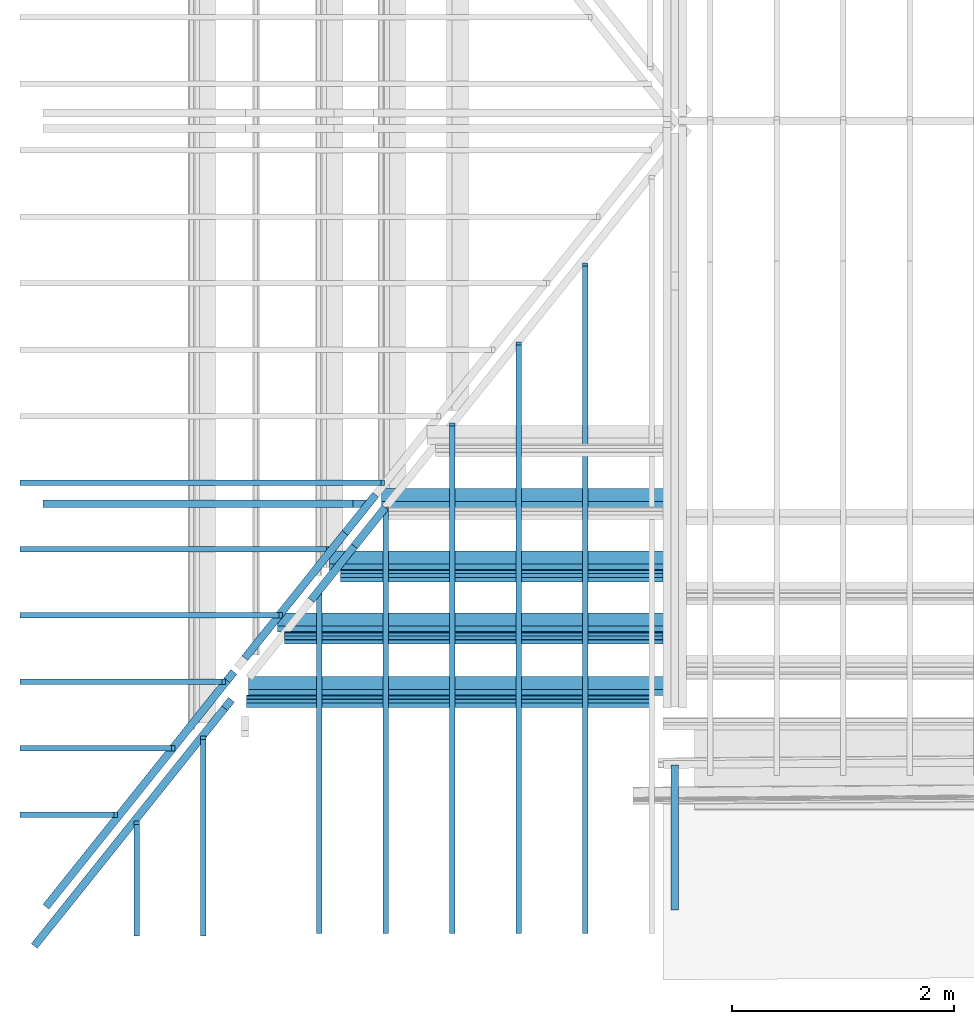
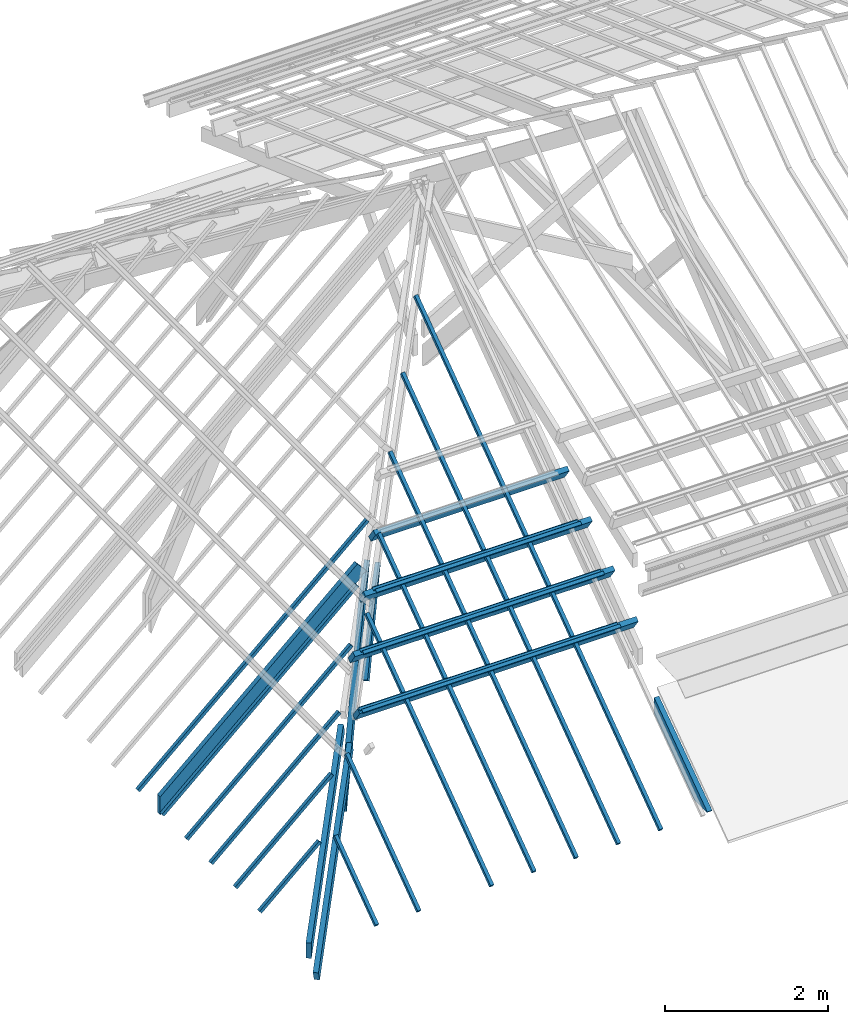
# One storey, part 1 of 18: 26 beams.
"""IFC2X3 building model written with IfcOpenShell, lengths in centimetres."""

from ifc_helpers import new_model, entity, si_unit, converted_unit, direction, frame, frame_2d, origin, origin_2d_with_axis, place, context, subcontext, project, spatial, polyline, circle_curve, parameter, trimmed, segment, composite_curve, rectangle, outline, extrude, clip, halfspace, material, type_object, element, save


model = new_model("IFC2X3")

# Units and contexts
model_context = context("Model", 3, precision=0.001, world=frame((0.0, 0.0, 13090.0)), true_north=direction((6.123233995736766e-17, 1.0)))
body_context = subcontext(model_context, "Body", "Model", "MODEL_VIEW")
ifc_project = project(units=[si_unit("LENGTHUNIT", "METRE", prefix="CENTI"), si_unit("AREAUNIT", "SQUARE_METRE"), si_unit("VOLUMEUNIT", "CUBIC_METRE"), converted_unit("PLANEANGLEUNIT", "DEGREE", entity("IfcPlaneAngleMeasure", 0.017453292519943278), si_unit("PLANEANGLEUNIT", "RADIAN"), dimensions=[0, 0, 0, 0, 0, 0, 0])], contexts=[model_context])

# Site, building, storey
site_placement = place(None, origin())
site = spatial("IfcSite", under=ifc_project, at=site_placement, Name="Default", CompositionType="ELEMENT")
building_placement = place(site_placement, origin())
building = spatial("IfcBuilding", under=site, at=building_placement, Name="e 39 logements et 22 maisons relais", CompositionType="ELEMENT")
storey_placement = place(building_placement, frame((0.0, 0.0, 610.0)))
storey = spatial("IfcBuildingStorey", under=building, at=storey_placement, Name="R+2", CompositionType="ELEMENT", Elevation=609.9999999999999)

# Beams
ifc_material_1 = material(Name="Bois - Bois de construction de dimensions courantes")
beam_type_1 = type_object("IfcBeamType", Name="Poutre - Bois de construction de dimensions courantes:70 200", PredefinedType="BEAM")
beam_1_placement = place(storey_placement, frame((-570.9302602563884, -539.0729663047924, -102.6711932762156), z_axis=(0.0, 0.0, 1.0), x_axis=(-1.0, 0.0, 0.0)))
element("IfcBeam", 1, at=beam_1_placement, inside=storey, type_object=beam_type_1, material=ifc_material_1, Name="Poutre - Bois de construction de dimensions courantes:70 200", ObjectType="Poutre - Bois de construction de dimensions courantes:70 200", context=body_context, shape_type="SweptSolid", body=[
    extrude(rectangle(XDim=20.000000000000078, YDim=7.000000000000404, at=frame_2d((3.1308289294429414e-14, -4.3520742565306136e-14), x_axis=(0.0, 1.0))), frame((331.0224028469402, -5.80702955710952, -8.141155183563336), z_axis=(1.0, 0.0, 0.0), x_axis=(0.0, -0.8141155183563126, 0.5807029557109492)), (0.0, 0.0, 1.0), 395.5433670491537),
])
beam_2_placement = place(storey_placement, frame((-570.9302602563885, -481.76311745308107, -61.17146722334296), z_axis=(0.0, 0.0, 1.0), x_axis=(-1.0, 0.0, 0.0)))
element("IfcBeam", 2, at=beam_2_placement, inside=storey, type_object=beam_type_1, material=ifc_material_1, Name="Poutre - Bois de construction de dimensions courantes:70 200", ObjectType="Poutre - Bois de construction de dimensions courantes:70 200", context=body_context, shape_type="SweptSolid", body=[
    extrude(rectangle(XDim=20.000000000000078, YDim=7.000000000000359, at=frame_2d((7.527312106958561e-14, -1.3322676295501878e-14), x_axis=(0.0, 1.0))), frame((331.0224028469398, -5.807029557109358, -8.141155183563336), z_axis=(1.0, 0.0, 0.0), x_axis=(0.0, -0.8141155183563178, 0.5807029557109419)), (0.0, 0.0, 1.0), 369.42831381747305),
])
beam_3_placement = place(storey_placement, frame((-570.9302602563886, -426.0437612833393, -20.823463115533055), z_axis=(0.0, 0.0, 1.0), x_axis=(-1.0, 0.0, 0.0)))
element("IfcBeam", 3, at=beam_3_placement, inside=storey, type_object=beam_type_1, material=ifc_material_1, Name="Poutre - Bois de construction de dimensions courantes:70 200", ObjectType="Poutre - Bois de construction de dimensions courantes:70 200", context=body_context, shape_type="SweptSolid", body=[
    extrude(rectangle(XDim=20.000000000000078, YDim=7.000000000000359, at=frame_2d((7.527312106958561e-14, -1.3322676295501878e-14), x_axis=(0.0, 1.0))), frame((331.02240284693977, -5.807029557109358, -8.141155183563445), z_axis=(1.0, 0.0, 0.0), x_axis=(0.0, -0.8141155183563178, 0.5807029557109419)), (0.0, 0.0, 1.0), 322.2739748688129),
])
beam_4_placement = place(storey_placement, frame((-571.5398602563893, -369.3433485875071, 20.23495251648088), z_axis=(0.0, 0.0, 1.0), x_axis=(-1.0, 0.0, 0.0)))
element("IfcBeam", 4, at=beam_4_placement, inside=storey, type_object=beam_type_1, material=ifc_material_1, Name="Poutre - Bois de construction de dimensions courantes:70 200", ObjectType="Poutre - Bois de construction de dimensions courantes:70 200", context=body_context, shape_type="SweptSolid", body=[
    extrude(rectangle(XDim=19.99999999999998, YDim=7.000000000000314, at=frame_2d((0.0, 0.0), x_axis=(0.0, 1.0))), frame((330.4128028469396, -5.735764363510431, -8.191520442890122), z_axis=(1.0, 0.0, 0.0), x_axis=(0.0, -0.8191520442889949, 0.5735764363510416)), (0.0, 0.0, 1.0), 275.3138276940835),
])
beam_5_placement = place(storey_placement, frame((-1378.984053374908, -368.8034740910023, -63.82767713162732), z_axis=(-0.6686368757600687, 0.0, 0.7435890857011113), x_axis=(0.7435890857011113, 0.0, 0.6686368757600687)))
element("IfcBeam", 5, at=beam_5_placement, inside=storey, type_object=beam_type_1, material=ifc_material_1, Name="Poutre - Bois de construction de dimensions courantes:70 200", ObjectType="Poutre - Bois de construction de dimensions courantes:70 200", context=body_context, shape_type="Clipping", body=[
    clip(extrude(rectangle(XDim=20.0, YDim=7.000000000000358, at=frame_2d((2.042810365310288e-14, 0.0), x_axis=(1.0, 0.0))), frame((-231.65183513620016, 0.0, -92.0), z_axis=(1.0, 0.0, 0.0), x_axis=(0.0, 0.0, -1.0)), (0.0, 0.0, 1.0), 394.3928419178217), halfspace(frame((-186.06070489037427, 585.5520112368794, -51.29823932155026), z_axis=(-0.7435890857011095, 0.0, 0.6686368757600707), x_axis=(0.0, -1.0, 0.0)), False)),
])
beam_6_placement = place(storey_placement, frame((-1417.0565138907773, -653.5047951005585, -118.13387969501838), z_axis=(-0.30661229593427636, -0.38311927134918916, 0.8713257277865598), x_axis=(0.5444394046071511, 0.6802898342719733, 0.49070508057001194)))
element("IfcBeam", 6, at=beam_6_placement, inside=storey, type_object=beam_type_1, material=ifc_material_1, Name="Poutre - Bois de construction de dimensions courantes:70 200", ObjectType="Poutre - Bois de construction de dimensions courantes:70 200", context=body_context, shape_type="Clipping", body=[
    clip(extrude(rectangle(XDim=19.999999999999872, YDim=7.0000000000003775, at=frame_2d((1.1546319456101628e-14, 1.1834977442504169e-13), x_axis=(1.0, 0.0))), frame((-173.65205872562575, 0.0, -92.0), z_axis=(1.0, 0.0, 0.0), x_axis=(0.0, 0.0, -1.0)), (0.0, 0.0, 1.0), 311.686235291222), halfspace(frame((-130.7876422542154, 321.48417638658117, -25.109907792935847), z_axis=(-0.8734440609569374, 0.0, 0.48692450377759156), x_axis=(0.0, -1.0, 0.0)), False)),
])
beam_7_placement = place(storey_placement, frame((-1406.1259773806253, -662.2525589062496, -118.13387969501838), z_axis=(-0.30661229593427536, -0.38311927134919, 0.8713257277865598), x_axis=(0.5444394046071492, 0.6802898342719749, 0.49070508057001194)))
element("IfcBeam", 7, at=beam_7_placement, inside=storey, type_object=beam_type_1, material=ifc_material_1, Name="Poutre - Bois de construction de dimensions courantes:70 200", ObjectType="Poutre - Bois de construction de dimensions courantes:70 200", context=body_context, shape_type="SweptSolid", body=[
    extrude(rectangle(XDim=20.00000000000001, YDim=7.000000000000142, at=frame_2d((-1.7141843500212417e-13, 5.040412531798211e-14), x_axis=(1.0, 0.0))), frame((-201.77810725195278, 0.0, -92.0), z_axis=(1.0, 0.0, 0.0), x_axis=(0.0, 0.0, -1.0)), (0.0, 0.0, 1.0), 315.67919671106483),
])
beam_8_placement = place(storey_placement, frame((-912.5294746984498, -723.302160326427, -162.0), z_axis=(0.0, -0.5761663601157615, 0.8173324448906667), x_axis=(0.0, 0.8173324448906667, 0.5761663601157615)))
element("IfcBeam", 8, at=beam_8_placement, inside=storey, type_object=beam_type_1, material=ifc_material_1, Name="Poutre - Bois de construction de dimensions courantes:70 200", ObjectType="Poutre - Bois de construction de dimensions courantes:70 200", context=body_context, shape_type="Clipping", body=[
    clip(clip(extrude(rectangle(XDim=20.000000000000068, YDim=7.000000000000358, at=frame_2d((-5.417888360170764e-14, -2.220446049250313e-14), x_axis=(0.0, 1.0))), frame((-71.34777337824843, 0.0, -90.0), z_axis=(1.0, 0.0, 0.0), x_axis=(0.0, 1.0, 0.0)), (0.0, 0.0, 1.0), 160.39081977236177), halfspace(frame((-30.130007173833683, -184.77470989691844, -110.89747385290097), z_axis=(-0.5761663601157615, 0.0, -0.8173324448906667), x_axis=(0.0, 1.0, 0.0)), False)), halfspace(frame((70.61394363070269, 184.77470989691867, -106.14297651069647), z_axis=(0.8173324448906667, 0.0, -0.5761663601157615), x_axis=(0.0, -1.0, 0.0)), False)),
])
beam_9_placement = place(storey_placement, frame((-1286.6631369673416, -512.9809315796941, -86.81401463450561), z_axis=(0.921785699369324, -0.20375373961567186, -0.329841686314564), x_axis=(0.387699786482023, 0.4844399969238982, 0.7842236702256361)))
element("IfcBeam", 9, at=beam_9_placement, inside=storey, type_object=beam_type_1, material=ifc_material_1, Name="Poutre - Bois de construction de dimensions courantes:70 200", ObjectType="Poutre - Bois de construction de dimensions courantes:70 200", context=body_context, shape_type="Clipping", body=[
    clip(extrude(rectangle(XDim=20.00000000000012, YDim=7.000000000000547, at=frame_2d((1.687538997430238e-14, -3.2862601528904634e-14), x_axis=(0.0, 1.0))), frame((14.537391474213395, -77.92401202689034, 48.90652665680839), z_axis=(1.0, 0.0, 0.0), x_axis=(0.0, 0.5315926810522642, 0.8470001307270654)), (0.0, 0.0, 1.0), 147.16574684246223), halfspace(frame((73.5082495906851, 134.32793614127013, 334.70154490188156), z_axis=(0.39438647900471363, 0.7783462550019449, -0.488504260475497), x_axis=(0.0, -0.5315926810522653, -0.8470001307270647)), False)),
])
beam_10_placement = place(storey_placement, frame((-1295.5124585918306, -501.6326408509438, -92.30873544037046), z_axis=(0.9252385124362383, -0.19438072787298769, -0.3258064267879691), x_axis=(0.37938594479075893, 0.47405165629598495, 0.7945699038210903)))
element("IfcBeam", 10, at=beam_10_placement, inside=storey, type_object=beam_type_1, material=ifc_material_1, Name="Poutre - Bois de construction de dimensions courantes:70 200", ObjectType="Poutre - Bois de construction de dimensions courantes:70 200", context=body_context, shape_type="Clipping", body=[
    clip(clip(extrude(rectangle(XDim=20.00000000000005, YDim=7.000000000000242, at=frame_2d((6.772360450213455e-14, -9.947598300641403e-14), x_axis=(0.0, 1.0))), frame((-146.96962917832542, -77.63321452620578, 49.366830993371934), z_axis=(1.0, 0.0, 0.0), x_axis=(0.0, 0.5365959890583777, 0.8438392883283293)), (0.0, 0.0, 1.0), 310.9770128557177), halfspace(frame((-76.83597434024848, -309.7725159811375, -396.92998224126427), z_axis=(-0.6071726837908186, 0.6704893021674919, -0.426363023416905), x_axis=(0.0, 0.5365959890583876, 0.8438392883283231)), False)), halfspace(frame((73.58466263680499, 215.59990871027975, 456.8141853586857), z_axis=(0.39438647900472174, 0.7754416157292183, -0.49310202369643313), x_axis=(0.0, -0.5365959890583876, -0.8438392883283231)), False)),
])
ifc_material_2 = material(Name="neuf")
beam_type_2 = type_object("IfcBeamType", Name="panne z:panne z", PredefinedType="BEAM")
beam_11_placement = place(storey_placement, frame((-570.9302602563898, -491.2968195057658, -52.41671928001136), z_axis=(0.0, 0.0, 1.0), x_axis=(-1.0, 0.0, 0.0)))
element("IfcBeam", 11, at=beam_11_placement, inside=storey, type_object=beam_type_2, material=ifc_material_2, Name="panne z:panne z", ObjectType="panne z:panne z", context=body_context, shape_type="SweptSolid", body=[
    extrude(outline(composite_curve([segment(polyline([(-4.600000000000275, -3.0), (-0.300000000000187, -3.0)]), True, "CONTINUOUS"), segment(trimmed(circle_curve(frame_2d((-0.30000000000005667, -2.600000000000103), x_axis=(0.0, -1.0)), 0.39999999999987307), [parameter(0.0)], [parameter(90.00000000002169)], True, "PARAMETER"), True, "CONTINUOUS"), segment(polyline([(0.0999999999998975, -2.600000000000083), (0.1000000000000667, 2.6000000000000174)]), True, "CONTINUOUS"), segment(trimmed(circle_curve(frame_2d((0.3000000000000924, 2.599999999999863), x_axis=(-1.0, 0.0)), 0.20000000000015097), [parameter(270.0000000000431)], [parameter(0.0)], True, "PARAMETER"), False, "CONTINUOUS"), segment(polyline([(0.2999999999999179, 2.799999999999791), (4.599999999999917, 2.799999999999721)]), True, "CONTINUOUS"), segment(trimmed(circle_curve(frame_2d((4.5999999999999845, 2.599999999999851), x_axis=(0.0, 1.0)), 0.20000000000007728), [parameter(270.00000000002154)], [parameter(0.0)], True, "PARAMETER"), False, "CONTINUOUS"), segment(polyline([(4.799999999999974, 2.5999999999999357), (4.799999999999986, 1.0)]), True, "CONTINUOUS"), segment(polyline([(4.799999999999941, 1.0), (5.0, 1.0)]), True, "CONTINUOUS"), segment(polyline([(5.0, 1.0), (5.0, 2.5999999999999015)]), True, "CONTINUOUS"), segment(trimmed(circle_curve(frame_2d((4.600000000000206, 2.600000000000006), x_axis=(1.0, 0.0)), 0.39999999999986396), [parameter(0.0)], [parameter(90.00000000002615)], True, "PARAMETER"), True, "CONTINUOUS"), segment(polyline([(4.6000000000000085, 3.0), (0.3000000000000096, 3.0)]), True, "CONTINUOUS"), segment(trimmed(circle_curve(frame_2d((0.29999999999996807, 2.6000000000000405), x_axis=(0.0, 1.0)), 0.39999999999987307), [parameter(0.0)], [parameter(90.00000000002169)], True, "PARAMETER"), True, "CONTINUOUS"), segment(polyline([(-0.10000000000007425, 2.5999999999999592), (-0.10000000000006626, -2.6000000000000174)]), True, "CONTINUOUS"), segment(trimmed(circle_curve(frame_2d((-0.3000000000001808, -2.5999999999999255), x_axis=(1.0, 0.0)), 0.20000000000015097), [parameter(270.0000000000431)], [parameter(0.0)], True, "PARAMETER"), False, "CONTINUOUS"), segment(polyline([(-0.3000000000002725, -2.8000000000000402), (-4.600000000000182, -2.7999999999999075)]), True, "CONTINUOUS"), segment(trimmed(circle_curve(frame_2d((-4.600000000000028, -2.5999999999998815), x_axis=(0.0, -1.0)), 0.20000000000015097), [parameter(270.0000000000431)], [parameter(0.0)], True, "PARAMETER"), False, "CONTINUOUS"), segment(polyline([(-4.800000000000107, -2.600000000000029), (-4.8000000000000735, -1.0)]), True, "CONTINUOUS"), segment(polyline([(-4.8000000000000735, -1.0), (-5.0, -1.0)]), True, "CONTINUOUS"), segment(polyline([(-5.0, -1.0), (-5.0, -2.5999999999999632)]), True, "CONTINUOUS"), segment(trimmed(circle_curve(frame_2d((-4.600000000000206, -2.600000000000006), x_axis=(-1.0, 0.0)), 0.399999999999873), [parameter(0.0)], [parameter(90.00000000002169)], True, "PARAMETER"), True, "CONTINUOUS")], self_intersect=False)), frame((352.09921444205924, -1.5385808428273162, -2.1973211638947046), z_axis=(1.0, 0.0, 0.0), x_axis=(0.0, -0.8191520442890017, 0.5735764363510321)), (0.0, 0.0, 1.0), 341.8941857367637),
])
beam_12_placement = place(storey_placement, frame((-570.9302602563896, -435.08451711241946, -11.711758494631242), z_axis=(0.0, 0.0, 1.0), x_axis=(-1.0, 0.0, 0.0)))
element("IfcBeam", 12, at=beam_12_placement, inside=storey, type_object=beam_type_2, material=ifc_material_2, Name="panne z:panne z", ObjectType="panne z:panne z", context=body_context, shape_type="SweptSolid", body=[
    extrude(outline(composite_curve([segment(polyline([(-4.600000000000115, -3.0), (-0.3000000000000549, -3.0)]), True, "CONTINUOUS"), segment(trimmed(circle_curve(frame_2d((-0.29999999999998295, -2.5999999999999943), x_axis=(0.0, -1.0)), 0.3999999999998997), [parameter(0.0)], [parameter(90.00000000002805)], True, "PARAMETER"), True, "CONTINUOUS"), segment(polyline([(0.0999999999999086, -2.5999999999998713), (0.09999999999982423, 2.6000000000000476)]), True, "CONTINUOUS"), segment(trimmed(circle_curve(frame_2d((0.2999999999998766, 2.6000000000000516), x_axis=(-1.0, 0.0)), 0.2000000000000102), [parameter(270.00000000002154)], [parameter(0.0)], True, "PARAMETER"), False, "CONTINUOUS"), segment(polyline([(0.2999999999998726, 2.8000000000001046), (4.599999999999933, 2.800000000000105)]), True, "CONTINUOUS"), segment(trimmed(circle_curve(frame_2d((4.5999999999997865, 2.60000000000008), x_axis=(0.0, 1.0)), 0.20000000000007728), [parameter(270.00000000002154)], [parameter(0.0)], True, "PARAMETER"), False, "CONTINUOUS"), segment(polyline([(4.799999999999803, 2.600000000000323), (4.799999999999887, 1.0)]), True, "CONTINUOUS"), segment(polyline([(4.799999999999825, 1.0), (5.0, 1.0)]), True, "CONTINUOUS"), segment(polyline([(5.0, 1.0), (5.0, 2.600000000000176)]), True, "CONTINUOUS"), segment(trimmed(circle_curve(frame_2d((4.600000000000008, 2.6000000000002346), x_axis=(1.0, 0.0)), 0.39999999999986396), [parameter(0.0)], [parameter(90.00000000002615)], True, "PARAMETER"), True, "CONTINUOUS"), segment(polyline([(4.599999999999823, 3.0), (0.2999999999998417, 3.0)]), True, "CONTINUOUS"), segment(trimmed(circle_curve(frame_2d((0.2999999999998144, 2.6000000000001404), x_axis=(0.0, 1.0)), 0.3999999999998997), [parameter(0.0)], [parameter(90.00000000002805)], True, "PARAMETER"), True, "CONTINUOUS"), segment(polyline([(-0.10000000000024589, 2.600000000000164), (-0.10000000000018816, -2.5999999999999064)]), True, "CONTINUOUS"), segment(trimmed(circle_curve(frame_2d((-0.3000000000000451, -2.5999999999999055), x_axis=(1.0, 0.0)), 0.2000000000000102), [parameter(270.00000000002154)], [parameter(0.0)], True, "PARAMETER"), False, "CONTINUOUS"), segment(polyline([(-0.30000000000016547, -2.799999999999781), (-4.600000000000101, -2.799999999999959)]), True, "CONTINUOUS"), segment(trimmed(circle_curve(frame_2d((-4.5999999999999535, -2.599999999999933), x_axis=(0.0, -1.0)), 0.20000000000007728), [parameter(270.00000000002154)], [parameter(0.0)], True, "PARAMETER"), False, "CONTINUOUS"), segment(polyline([(-4.800000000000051, -2.5999999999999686), (-4.800000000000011, -1.0)]), True, "CONTINUOUS"), segment(polyline([(-4.800000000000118, -1.0), (-5.0, -1.0)]), True, "CONTINUOUS"), segment(polyline([(-5.0, -1.0), (-5.0, -2.600000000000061)]), True, "CONTINUOUS"), segment(trimmed(circle_curve(frame_2d((-4.6000000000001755, -2.6000000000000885), x_axis=(-1.0, 0.0)), 0.39999999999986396), [parameter(0.0)], [parameter(90.00000000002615)], True, "PARAMETER"), True, "CONTINUOUS")], self_intersect=False)), frame((352.09921444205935, -1.538580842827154, -2.1973211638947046), z_axis=(1.0, 0.0, 0.0), x_axis=(0.0, -0.8191520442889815, 0.5735764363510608)), (0.0, 0.0, 1.0), 291.39451465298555),
])
beam_13_placement = place(storey_placement, frame((-570.9302602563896, -548.4378399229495, -93.79419176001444), z_axis=(0.0, 0.0, 1.0), x_axis=(-1.0, 0.0, 0.0)))
element("IfcBeam", 13, at=beam_13_placement, inside=storey, type_object=beam_type_2, material=ifc_material_2, Name="panne z:panne z", ObjectType="panne z:panne z", context=body_context, shape_type="SweptSolid", body=[
    extrude(outline(composite_curve([segment(polyline([(-4.599999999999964, -3.0), (-0.29999999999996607, -3.0)]), True, "CONTINUOUS"), segment(trimmed(circle_curve(frame_2d((-0.2999999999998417, -2.5999999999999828), x_axis=(0.0, -1.0)), 0.39999999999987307), [parameter(0.0)], [parameter(90.00000000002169)], True, "PARAMETER"), True, "CONTINUOUS"), segment(polyline([(0.10000000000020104, -2.599999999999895), (0.10000000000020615, 2.6000000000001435)]), True, "CONTINUOUS"), segment(trimmed(circle_curve(frame_2d((0.30000000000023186, 2.5999999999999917), x_axis=(-1.0, 0.0)), 0.20000000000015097), [parameter(270.0000000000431)], [parameter(0.0)], True, "PARAMETER"), False, "CONTINUOUS"), segment(polyline([(0.30000000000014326, 2.7999999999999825), (4.600000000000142, 2.799999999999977)]), True, "CONTINUOUS"), segment(trimmed(circle_curve(frame_2d((4.60000000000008, 2.600000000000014), x_axis=(0.0, 1.0)), 0.20000000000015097), [parameter(270.0000000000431)], [parameter(0.0)], True, "PARAMETER"), False, "CONTINUOUS"), segment(polyline([(4.800000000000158, 2.6000000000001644), (4.800000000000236, 1.0)]), True, "CONTINUOUS"), segment(polyline([(4.800000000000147, 1.0), (5.0, 1.0)]), True, "CONTINUOUS"), segment(polyline([(5.0, 1.0), (5.0, 2.6000000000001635)]), True, "CONTINUOUS"), segment(trimmed(circle_curve(frame_2d((4.600000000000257, 2.600000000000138), x_axis=(1.0, 0.0)), 0.399999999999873), [parameter(0.0)], [parameter(90.00000000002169)], True, "PARAMETER"), True, "CONTINUOUS"), segment(polyline([(4.600000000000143, 3.0), (0.30000000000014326, 3.0)]), True, "CONTINUOUS"), segment(trimmed(circle_curve(frame_2d((0.3000000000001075, 2.6000000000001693), x_axis=(0.0, 1.0)), 0.39999999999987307), [parameter(0.0)], [parameter(90.00000000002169)], True, "PARAMETER"), True, "CONTINUOUS"), segment(polyline([(-0.09999999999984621, 2.600000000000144), (-0.09999999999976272, -2.5999999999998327)]), True, "CONTINUOUS"), segment(trimmed(circle_curve(frame_2d((-0.29999999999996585, -2.599999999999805), x_axis=(1.0, 0.0)), 0.20000000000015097), [parameter(270.0000000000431)], [parameter(0.0)], True, "PARAMETER"), False, "CONTINUOUS"), segment(polyline([(-0.29999999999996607, -2.7999999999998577), (-4.599999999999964, -2.7999999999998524)]), True, "CONTINUOUS"), segment(trimmed(circle_curve(frame_2d((-4.599999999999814, -2.5999999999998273), x_axis=(0.0, -1.0)), 0.20000000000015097), [parameter(270.0000000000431)], [parameter(0.0)], True, "PARAMETER"), False, "CONTINUOUS"), segment(polyline([(-4.7999999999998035, -2.5999999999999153), (-4.799999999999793, -1.0)]), True, "CONTINUOUS"), segment(polyline([(-4.799999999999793, -1.0), (-5.0, -1.0)]), True, "CONTINUOUS"), segment(polyline([(-5.0, -1.0), (-5.0, -2.599999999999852)]), True, "CONTINUOUS"), segment(trimmed(circle_curve(frame_2d((-4.599999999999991, -2.5999999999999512), x_axis=(-1.0, 0.0)), 0.399999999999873), [parameter(0.0)], [parameter(90.00000000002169)], True, "PARAMETER"), True, "CONTINUOUS")], self_intersect=False)), frame((361.45171028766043, -1.5385808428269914, -2.1973211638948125), z_axis=(1.0, 0.0, 0.0), x_axis=(0.0, -0.8191520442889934, 0.5735764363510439)), (0.0, 0.0, 1.0), 366.77289189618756),
])
beam_type_3 = type_object("IfcBeamType", Name="Poutre - Bois de construction de dimensions courantes:50 50", PredefinedType="BEAM")
beam_14_placement = place(storey_placement, frame((-993.5172162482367, -597.4654356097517, -53.59070882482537), z_axis=(0.0, -0.5865050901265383, 0.8099455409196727), x_axis=(0.0, 0.8099455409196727, 0.5865050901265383)))
element("IfcBeam", 14, at=beam_14_placement, inside=storey, type_object=beam_type_3, material=ifc_material_1, Name="Poutre - Bois de construction de dimensions courantes:50 50", ObjectType="Poutre - Bois de construction de dimensions courantes:50 50", context=body_context, shape_type="SweptSolid", body=[
    extrude(rectangle(XDim=4.9999999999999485, YDim=5.000000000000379, at=frame_2d((9.747758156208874e-14, -1.0835776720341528e-13), x_axis=(1.0, 0.0))), frame((-246.67388331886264, 0.0, -71.49999999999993), z_axis=(1.0, 0.0, 0.0), x_axis=(0.0, 0.0, -1.0)), (0.0, 0.0, 1.0), 744.1426620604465),
])
beam_15_placement = place(storey_placement, frame((-1053.5172162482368, -597.4654356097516, -53.59070882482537), z_axis=(0.0, -0.5865050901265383, 0.8099455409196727), x_axis=(0.0, 0.8099455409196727, 0.5865050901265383)))
element("IfcBeam", 15, at=beam_15_placement, inside=storey, type_object=beam_type_3, material=ifc_material_1, Name="Poutre - Bois de construction de dimensions courantes:50 50", ObjectType="Poutre - Bois de construction de dimensions courantes:50 50", context=body_context, shape_type="SweptSolid", body=[
    extrude(rectangle(XDim=5.0000000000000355, YDim=5.000000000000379, at=frame_2d((2.1760371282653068e-14, 1.0835776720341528e-13), x_axis=(1.0, 0.0))), frame((-246.6738833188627, 0.0, -71.5000000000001), z_axis=(1.0, 0.0, 0.0), x_axis=(0.0, 0.0, -1.0)), (0.0, 0.0, 1.0), 655.9969557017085),
])
beam_16_placement = place(storey_placement, frame((-1113.5172162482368, -597.4654356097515, -53.59070882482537), z_axis=(0.0, -0.5865050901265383, 0.8099455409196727), x_axis=(0.0, 0.8099455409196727, 0.5865050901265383)))
element("IfcBeam", 16, at=beam_16_placement, inside=storey, type_object=beam_type_3, material=ifc_material_1, Name="Poutre - Bois de construction de dimensions courantes:50 50", ObjectType="Poutre - Bois de construction de dimensions courantes:50 50", context=body_context, shape_type="SweptSolid", body=[
    extrude(rectangle(XDim=5.00000000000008, YDim=5.000000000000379, at=frame_2d((-5.3734794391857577e-14, 1.0835776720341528e-13), x_axis=(1.0, 0.0))), frame((-246.67388331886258, 0.0, -71.50000000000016), z_axis=(1.0, 0.0, 0.0), x_axis=(0.0, 0.0, -1.0)), (0.0, 0.0, 1.0), 565.6048393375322),
])
beam_17_placement = place(storey_placement, frame((-1173.5172162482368, -597.4654356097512, -53.59070882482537), z_axis=(0.0, -0.5865050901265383, 0.8099455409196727), x_axis=(0.0, 0.8099455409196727, 0.5865050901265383)))
element("IfcBeam", 17, at=beam_17_placement, inside=storey, type_object=beam_type_3, material=ifc_material_1, Name="Poutre - Bois de construction de dimensions courantes:50 50", ObjectType="Poutre - Bois de construction de dimensions courantes:50 50", context=body_context, shape_type="SweptSolid", body=[
    extrude(rectangle(XDim=5.00000000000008, YDim=5.000000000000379, at=frame_2d((0.0, 1.0835776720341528e-13), x_axis=(1.0, 0.0))), frame((-246.67388331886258, 0.0, -71.50000000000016), z_axis=(1.0, 0.0, 0.0), x_axis=(0.0, 0.0, -1.0)), (0.0, 0.0, 1.0), 471.2292334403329),
])
beam_18_placement = place(storey_placement, frame((-1233.5172162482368, -597.465435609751, -53.59070882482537), z_axis=(0.0, -0.5865050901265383, 0.8099455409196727), x_axis=(0.0, 0.8099455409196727, 0.5865050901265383)))
element("IfcBeam", 18, at=beam_18_placement, inside=storey, type_object=beam_type_3, material=ifc_material_1, Name="Poutre - Bois de construction de dimensions courantes:50 50", ObjectType="Poutre - Bois de construction de dimensions courantes:50 50", context=body_context, shape_type="SweptSolid", body=[
    extrude(rectangle(XDim=4.999999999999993, YDim=5.000000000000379, at=frame_2d((-5.3734794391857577e-14, -1.0835776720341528e-13), x_axis=(1.0, 0.0))), frame((-246.6738833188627, 0.0, -71.50000000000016), z_axis=(1.0, 0.0, 0.0), x_axis=(0.0, 0.0, -1.0)), (0.0, 0.0, 1.0), 379.59919864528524),
])
beam_19_placement = place(storey_placement, frame((-1338.335368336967, -599.8092531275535, -53.59070882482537), z_axis=(0.0, -0.5865050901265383, 0.8099455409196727), x_axis=(0.0, 0.8099455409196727, 0.5865050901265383)))
element("IfcBeam", 19, at=beam_19_placement, inside=storey, type_object=beam_type_3, material=ifc_material_1, Name="Poutre - Bois de construction de dimensions courantes:50 50", ObjectType="Poutre - Bois de construction de dimensions courantes:50 50", context=body_context, shape_type="SweptSolid", body=[
    extrude(rectangle(XDim=4.999999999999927, YDim=5.000000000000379, at=frame_2d((0.0, 1.0835776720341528e-13), x_axis=(1.0, 0.0))), frame((-246.6738833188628, 0.0, -71.50000000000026), z_axis=(1.0, 0.0, 0.0), x_axis=(0.0, 0.0, -1.0)), (0.0, 0.0, 1.0), 219.40262383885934),
])
beam_20_placement = place(storey_placement, frame((-1398.335368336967, -599.8092531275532, -53.59070882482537), z_axis=(0.0, -0.5865050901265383, 0.8099455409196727), x_axis=(0.0, 0.8099455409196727, 0.5865050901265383)))
element("IfcBeam", 20, at=beam_20_placement, inside=storey, type_object=beam_type_3, material=ifc_material_1, Name="Poutre - Bois de construction de dimensions courantes:50 50", ObjectType="Poutre - Bois de construction de dimensions courantes:50 50", context=body_context, shape_type="SweptSolid", body=[
    extrude(rectangle(XDim=4.999999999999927, YDim=5.000000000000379, at=frame_2d((0.0, -1.0835776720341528e-13), x_axis=(1.0, 0.0))), frame((-246.67388331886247, 0.0, -71.5000000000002), z_axis=(1.0, 0.0, 0.0), x_axis=(0.0, 0.0, -1.0)), (0.0, 0.0, 1.0), 124.67617260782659),
])
beam_21_placement = place(storey_placement, frame((-1389.908594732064, -349.5979031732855, -50.6248321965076), z_axis=(-0.6673418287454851, 0.0, 0.7447515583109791), x_axis=(0.7447515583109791, 0.0, 0.6673418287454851)))
element("IfcBeam", 21, at=beam_21_placement, inside=storey, type_object=beam_type_3, material=ifc_material_1, Name="Poutre - Bois de construction de dimensions courantes:50 50", ObjectType="Poutre - Bois de construction de dimensions courantes:50 50", context=body_context, shape_type="SweptSolid", body=[
    extrude(rectangle(XDim=4.999999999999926, YDim=5.000000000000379, at=origin_2d_with_axis()), frame((-226.35367557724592, 0.0, -84.50000000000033), z_axis=(1.0, 0.0, 0.0), x_axis=(0.0, 0.0, -1.0)), (0.0, 0.0, 1.0), 437.51914403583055),
])
beam_22_placement = place(storey_placement, frame((-1389.908594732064, -409.5979031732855, -50.6248321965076), z_axis=(-0.6673418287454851, 0.0, 0.7447515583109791), x_axis=(0.7447515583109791, 0.0, 0.6673418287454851)))
element("IfcBeam", 22, at=beam_22_placement, inside=storey, type_object=beam_type_3, material=ifc_material_1, Name="Poutre - Bois de construction de dimensions courantes:50 50", ObjectType="Poutre - Bois de construction de dimensions courantes:50 50", context=body_context, shape_type="SweptSolid", body=[
    extrude(rectangle(XDim=4.999999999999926, YDim=5.000000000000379, at=origin_2d_with_axis()), frame((-226.35367557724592, 0.0, -84.50000000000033), z_axis=(1.0, 0.0, 0.0), x_axis=(0.0, 0.0, -1.0)), (0.0, 0.0, 1.0), 371.571198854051),
])
beam_23_placement = place(storey_placement, frame((-1389.908594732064, -469.5979031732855, -50.6248321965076), z_axis=(-0.6673418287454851, 0.0, 0.7447515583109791), x_axis=(0.7447515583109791, 0.0, 0.6673418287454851)))
element("IfcBeam", 23, at=beam_23_placement, inside=storey, type_object=beam_type_3, material=ifc_material_1, Name="Poutre - Bois de construction de dimensions courantes:50 50", ObjectType="Poutre - Bois de construction de dimensions courantes:50 50", context=body_context, shape_type="SweptSolid", body=[
    extrude(rectangle(XDim=4.999999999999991, YDim=5.000000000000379, at=frame_2d((1.5276668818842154e-13, 0.0), x_axis=(1.0, 0.0))), frame((-226.35367557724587, 0.0, -84.50000000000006), z_axis=(1.0, 0.0, 0.0), x_axis=(0.0, 0.0, -1.0)), (0.0, 0.0, 1.0), 313.8248485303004),
])
beam_24_placement = place(storey_placement, frame((-1389.908594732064, -529.5979031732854, -50.6248321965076), z_axis=(-0.6673418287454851, 0.0, 0.7447515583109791), x_axis=(0.7447515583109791, 0.0, 0.6673418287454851)))
element("IfcBeam", 24, at=beam_24_placement, inside=storey, type_object=beam_type_3, material=ifc_material_1, Name="Poutre - Bois de construction de dimensions courantes:50 50", ObjectType="Poutre - Bois de construction de dimensions courantes:50 50", context=body_context, shape_type="SweptSolid", body=[
    extrude(rectangle(XDim=4.999999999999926, YDim=5.000000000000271, at=frame_2d((0.0, 5.417888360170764e-14), x_axis=(1.0, 0.0))), frame((-226.35367557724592, 0.0, -84.50000000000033), z_axis=(1.0, 0.0, 0.0), x_axis=(0.0, 0.0, -1.0)), (0.0, 0.0, 1.0), 244.80173918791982),
])
beam_25_placement = place(storey_placement, frame((-1389.908594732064, -589.5979031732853, -50.6248321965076), z_axis=(-0.6673418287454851, 0.0, 0.7447515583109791), x_axis=(0.7447515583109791, 0.0, 0.6673418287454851)))
element("IfcBeam", 25, at=beam_25_placement, inside=storey, type_object=beam_type_3, material=ifc_material_1, Name="Poutre - Bois de construction de dimensions courantes:50 50", ObjectType="Poutre - Bois de construction de dimensions courantes:50 50", context=body_context, shape_type="SweptSolid", body=[
    extrude(rectangle(XDim=4.999999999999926, YDim=5.000000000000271, at=frame_2d((0.0, 5.417888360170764e-14), x_axis=(1.0, 0.0))), frame((-226.35367557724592, 0.0, -84.50000000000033), z_axis=(1.0, 0.0, 0.0), x_axis=(0.0, 0.0, -1.0)), (0.0, 0.0, 1.0), 183.6221649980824),
])
beam_26_placement = place(storey_placement, frame((-1389.908594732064, -649.5979031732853, -50.6248321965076), z_axis=(-0.6673418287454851, 0.0, 0.7447515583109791), x_axis=(0.7447515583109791, 0.0, 0.6673418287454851)))
element("IfcBeam", 26, at=beam_26_placement, inside=storey, type_object=beam_type_3, material=ifc_material_1, Name="Poutre - Bois de construction de dimensions courantes:50 50", ObjectType="Poutre - Bois de construction de dimensions courantes:50 50", context=body_context, shape_type="SweptSolid", body=[
    extrude(rectangle(XDim=4.999999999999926, YDim=5.000000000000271, at=frame_2d((0.0, 5.417888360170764e-14), x_axis=(1.0, 0.0))), frame((-226.35367557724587, 0.0, -84.50000000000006), z_axis=(1.0, 0.0, 0.0), x_axis=(0.0, 0.0, -1.0)), (0.0, 0.0, 1.0), 113.81470214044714),
])

save(model, "model.ifc")
